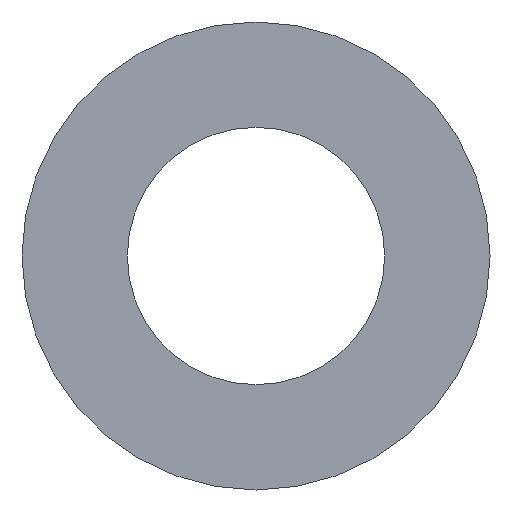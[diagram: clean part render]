
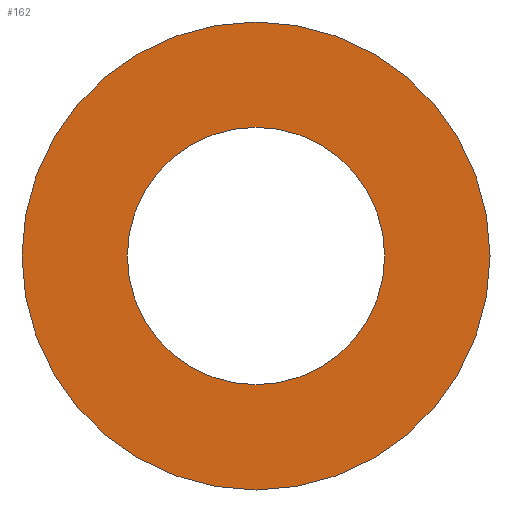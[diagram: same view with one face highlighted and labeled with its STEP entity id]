
A CAD part, front view. The second image highlights one B-rep face of the part: STEP entity #162.
In plain terms, the highlighted planar face has unit normal (0, -1, 0).
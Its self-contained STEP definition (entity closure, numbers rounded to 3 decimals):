
#11 = EDGE_LOOP ( 'NONE', ( #312, #297 ) ) ;
#46 = AXIS2_PLACEMENT_3D ( 'NONE', #120, #121, #123 ) ;
#51 = AXIS2_PLACEMENT_3D ( 'NONE', #178, #184, #185 ) ;
#56 = ORIENTED_EDGE ( 'NONE', *, *, #215, .F. ) ;
#68 = FACE_OUTER_BOUND ( 'NONE', #333, .T. ) ;
#73 = PLANE ( 'NONE',  #267 ) ;
#74 = CARTESIAN_POINT ( 'NONE',  ( 0., -0.5, 0. ) ) ;
#78 = DIRECTION ( 'NONE',  ( 0., 1., 0. ) ) ;
#79 = DIRECTION ( 'NONE',  ( 0., 0., 1. ) ) ;
#109 = CARTESIAN_POINT ( 'NONE',  ( 0., -0.5, 0. ) ) ;
#110 = DIRECTION ( 'NONE',  ( 0., 1., 0. ) ) ;
#111 = DIRECTION ( 'NONE',  ( 0., 0., 1. ) ) ;
#120 = CARTESIAN_POINT ( 'NONE',  ( 0., -0.5, 0. ) ) ;
#121 = DIRECTION ( 'NONE',  ( 0., 1., 0. ) ) ;
#123 = DIRECTION ( 'NONE',  ( 0., 0., 1. ) ) ;
#147 = CARTESIAN_POINT ( 'NONE',  ( 0., -0.5, 0. ) ) ;
#148 = DIRECTION ( 'NONE',  ( 0., 1., 0. ) ) ;
#150 = DIRECTION ( 'NONE',  ( 0., 0., 1. ) ) ;
#162 = ADVANCED_FACE ( 'NONE', ( #68, #328 ), #73, .F. ) ;
#165 = CARTESIAN_POINT ( 'NONE',  ( 0., -0.5, -2.75 ) ) ;
#167 = CARTESIAN_POINT ( 'NONE',  ( 0., -0.5, 5. ) ) ;
#177 = CIRCLE ( 'NONE', #46, 5. ) ;
#178 = CARTESIAN_POINT ( 'NONE',  ( 0., -0.5, 0. ) ) ;
#184 = DIRECTION ( 'NONE',  ( 0., 1., 0. ) ) ;
#185 = DIRECTION ( 'NONE',  ( 0., 0., 1. ) ) ;
#189 = CARTESIAN_POINT ( 'NONE',  ( 0., -0.5, -5. ) ) ;
#196 = CARTESIAN_POINT ( 'NONE',  ( 0., -0.5, 2.75 ) ) ;
#198 = CIRCLE ( 'NONE', #51, 2.75 ) ;
#204 = EDGE_CURVE ( 'NONE', #314, #292, #338, .T. ) ;
#212 = CIRCLE ( 'NONE', #310, 2.75 ) ;
#215 = EDGE_CURVE ( 'NONE', #292, #314, #177, .T. ) ;
#254 = EDGE_CURVE ( 'NONE', #343, #286, #212, .T. ) ;
#267 = AXIS2_PLACEMENT_3D ( 'NONE', #74, #78, #79 ) ;
#272 = AXIS2_PLACEMENT_3D ( 'NONE', #109, #110, #111 ) ;
#286 = VERTEX_POINT ( 'NONE', #165 ) ;
#292 = VERTEX_POINT ( 'NONE', #167 ) ;
#297 = ORIENTED_EDGE ( 'NONE', *, *, #254, .T. ) ;
#310 = AXIS2_PLACEMENT_3D ( 'NONE', #147, #148, #150 ) ;
#311 = EDGE_CURVE ( 'NONE', #286, #343, #198, .T. ) ;
#312 = ORIENTED_EDGE ( 'NONE', *, *, #311, .T. ) ;
#314 = VERTEX_POINT ( 'NONE', #189 ) ;
#328 = FACE_BOUND ( 'NONE', #11, .T. ) ;
#333 = EDGE_LOOP ( 'NONE', ( #344, #56 ) ) ;
#338 = CIRCLE ( 'NONE', #272, 5. ) ;
#343 = VERTEX_POINT ( 'NONE', #196 ) ;
#344 = ORIENTED_EDGE ( 'NONE', *, *, #204, .F. ) ;
